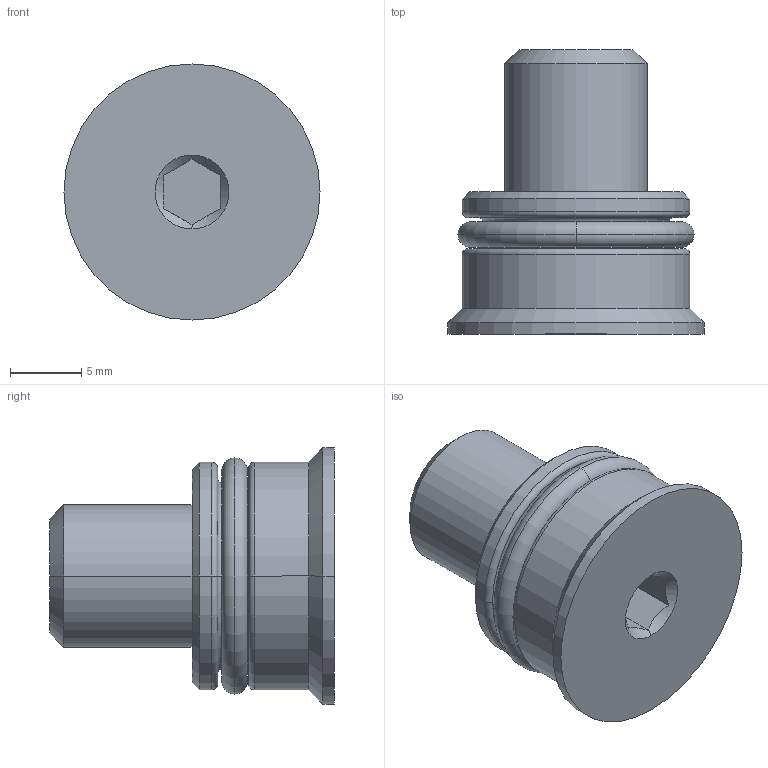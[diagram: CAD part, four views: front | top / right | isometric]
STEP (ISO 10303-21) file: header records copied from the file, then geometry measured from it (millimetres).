
FILE_DESCRIPTION (( 'STEP AP203' ), '1' );
FILE_NAME ('160649.0_16001898.STEP', '2014-08-13T07:10:07', ( '' ), ( '' ), 'SwSTEP 2.0', 'SolidWorks 2014', '' );
FILE_SCHEMA (( 'CONFIG_CONTROL_DESIGN' ));
Length unit declared in the file: millimetre
Products named in the file (3): 160649.0_16001898; 160649.0 Spezialschr Prisma Foto^160649.0_16001898_Detailliert; O-Ring^160649.0_16001898
Assembly tree (2 placements, depth 2):
  160649.0_16001898
    160649.0 Spezialschr Prisma Foto^160649.0_16001898_Detailliert
    O-Ring^160649.0_16001898
Bounding box: 18 x 20 x 18 mm (x, y, z)
Volume: 2740.4 mm3; surface area: 1680.9 mm2
Topology: 2 solids, 2 shells, 42 faces, 86 edges, 50 vertices
Faces by surface type: torus 12, plane 12, cylinder 10, cone 8
Entity records: 1463 total; most frequent: CARTESIAN_POINT 245, DIRECTION 224, ORIENTED_EDGE 172, AXIS2_PLACEMENT_3D 97, EDGE_CURVE 86, CIRCLE 50, VERTEX_POINT 50, EDGE_LOOP 46
